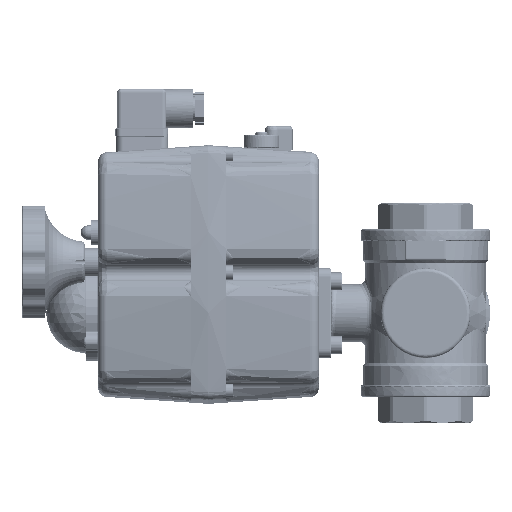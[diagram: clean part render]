
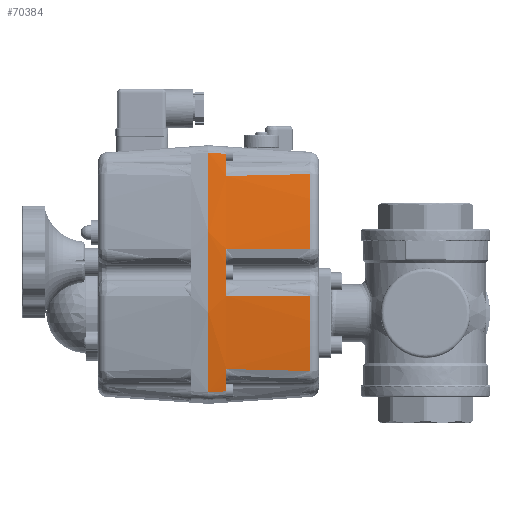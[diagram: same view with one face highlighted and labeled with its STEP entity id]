
A CAD part, left-side view. The second image highlights one B-rep face of the part: STEP entity #70384.
In plain terms, the highlighted conical face has half-angle 4 degrees and reference radius 403.75 mm.
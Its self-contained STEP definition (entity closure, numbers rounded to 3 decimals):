
#68550=CARTESIAN_POINT('',(-54.09,111.,35.657));
#68551=VERTEX_POINT('',#68550);
#68565=CARTESIAN_POINT('',(-54.09,111.,9.603));
#68566=VERTEX_POINT('',#68565);
#68567=CARTESIAN_POINT('',(348.75,111.,22.63));
#68568=DIRECTION('',(0.0,-1.0,0.0));
#68569=DIRECTION('',(0.0,0.0,-1.0));
#68570=AXIS2_PLACEMENT_3D('',#68567,#68568,#68569);
#68571=CIRCLE('',#68570,403.051);
#68572=EDGE_CURVE('',#68551,#68566,#68571,.T.);
#68970=CARTESIAN_POINT('',(-48.828,111.,-43.564));
#68971=VERTEX_POINT('',#68970);
#68985=CARTESIAN_POINT('',(-49.429,121.,-44.207));
#68986=VERTEX_POINT('',#68985);
#68987=CARTESIAN_POINT('',(-48.828,111.,-43.564));
#68988=CARTESIAN_POINT('',(-48.878,111.83,-43.617));
#68989=CARTESIAN_POINT('',(-48.928,112.659,-43.671));
#68990=CARTESIAN_POINT('',(-49.128,115.993,-43.885));
#68991=CARTESIAN_POINT('',(-49.279,118.496,-44.046));
#68992=CARTESIAN_POINT('',(-49.429,121.,-44.207));
#68993=B_SPLINE_CURVE_WITH_KNOTS('',3,(#68987,#68988,#68989,#68990,#68991,#68992),.UNSPECIFIED.,.F.,.U.,(4,2,4),(5.021,7.52,15.06),.UNSPECIFIED.);
#68994=EDGE_CURVE('',#68971,#68986,#68993,.T.);
#69039=CARTESIAN_POINT('',(-50.692,111.,-31.184));
#69040=VERTEX_POINT('',#69039);
#69054=CARTESIAN_POINT('',(348.75,111.,22.63));
#69055=DIRECTION('',(0.0,-1.0,0.0));
#69056=DIRECTION('',(0.0,0.0,-1.0));
#69057=AXIS2_PLACEMENT_3D('',#69054,#69055,#69056);
#69058=CIRCLE('',#69057,403.051);
#69059=EDGE_CURVE('',#69040,#68971,#69058,.T.);
#69137=CARTESIAN_POINT('',(-48.838,111.,88.761));
#69138=VERTEX_POINT('',#69137);
#69152=CARTESIAN_POINT('',(-50.692,111.,76.444));
#69153=VERTEX_POINT('',#69152);
#69154=CARTESIAN_POINT('',(348.75,111.,22.63));
#69155=DIRECTION('',(0.0,-1.0,0.0));
#69156=DIRECTION('',(0.0,0.0,-1.0));
#69157=AXIS2_PLACEMENT_3D('',#69154,#69155,#69156);
#69158=CIRCLE('',#69157,403.051);
#69159=EDGE_CURVE('',#69138,#69153,#69158,.T.);
#69237=CARTESIAN_POINT('',(-49.429,121.,89.468));
#69238=VERTEX_POINT('',#69237);
#69252=CARTESIAN_POINT('',(-49.429,121.,89.468));
#69253=CARTESIAN_POINT('',(-49.281,118.497,89.291));
#69254=CARTESIAN_POINT('',(-49.134,115.993,89.114));
#69255=CARTESIAN_POINT('',(-48.937,112.66,88.879));
#69256=CARTESIAN_POINT('',(-48.887,111.83,88.82));
#69257=CARTESIAN_POINT('',(-48.838,111.,88.761));
#69258=B_SPLINE_CURVE_WITH_KNOTS('',3,(#69252,#69253,#69254,#69255,#69256,#69257),.UNSPECIFIED.,.F.,.U.,(4,2,4),(5.024,12.566,15.066),.UNSPECIFIED.);
#69259=EDGE_CURVE('',#69238,#69138,#69258,.T.);
#70266=CARTESIAN_POINT('',(-47.236,64.151,77.54));
#70267=VERTEX_POINT('',#70266);
#70295=CARTESIAN_POINT('',(-50.692,111.,76.444));
#70296=CARTESIAN_POINT('',(-50.556,109.116,76.468));
#70297=CARTESIAN_POINT('',(-50.419,107.231,76.494));
#70298=CARTESIAN_POINT('',(-50.114,103.02,76.556));
#70299=CARTESIAN_POINT('',(-49.945,100.693,76.594));
#70300=CARTESIAN_POINT('',(-49.669,96.912,76.662));
#70301=CARTESIAN_POINT('',(-49.562,95.458,76.69));
#70302=CARTESIAN_POINT('',(-49.218,90.757,76.783));
#70303=CARTESIAN_POINT('',(-48.979,87.511,76.856));
#70304=CARTESIAN_POINT('',(-48.355,79.07,77.064));
#70305=CARTESIAN_POINT('',(-47.968,73.877,77.212));
#70306=CARTESIAN_POINT('',(-47.464,67.173,77.434));
#70307=CARTESIAN_POINT('',(-47.35,65.662,77.486));
#70308=CARTESIAN_POINT('',(-47.236,64.151,77.54));
#70309=B_SPLINE_CURVE_WITH_KNOTS('',3,(#70295,#70296,#70297,#70298,#70299,#70300,#70301,#70302,#70303,#70304,#70305,#70306,#70307,#70308),.UNSPECIFIED.,.F.,.U.,(4,2,2,2,2,2,4),(13.201,18.869,25.868,30.243,40.011,55.64,60.189),.UNSPECIFIED.);
#70310=EDGE_CURVE('',#69153,#70267,#70309,.T.);
#70315=CARTESIAN_POINT('',(348.75,121.,22.63));
#70316=DIRECTION('',(0.,1.0,0.));
#70317=DIRECTION('',(0.0,0.0,-1.0));
#70318=AXIS2_PLACEMENT_3D('',#70315,#70316,#70317);
#70319=CONICAL_SURFACE('',#70318,403.75,4.);
#70320=CARTESIAN_POINT('',(-50.812,64.151,9.601));
#70321=VERTEX_POINT('',#70320);
#70322=CARTESIAN_POINT('',(-47.236,64.151,-32.28));
#70323=VERTEX_POINT('',#70322);
#70324=CARTESIAN_POINT('',(348.75,64.151,22.63));
#70325=DIRECTION('',(0.,-1.0,0.));
#70326=DIRECTION('',(-0.996,0.,-0.085));
#70327=AXIS2_PLACEMENT_3D('',#70324,#70325,#70326);
#70328=CIRCLE('',#70327,399.775);
#70329=EDGE_CURVE('',#70321,#70323,#70328,.T.);
#70330=ORIENTED_EDGE('',*,*,#70329,.F.);
#70331=CARTESIAN_POINT('',(-54.09,111.,9.603));
#70332=DIRECTION('',(0.07,-0.998,0.));
#70333=VECTOR('',#70332,46.963);
#70334=LINE('',#70331,#70333);
#70335=EDGE_CURVE('',#68566,#70321,#70334,.T.);
#70336=ORIENTED_EDGE('',*,*,#70335,.F.);
#70337=ORIENTED_EDGE('',*,*,#68572,.F.);
#70338=CARTESIAN_POINT('',(-50.812,64.151,35.659));
#70339=VERTEX_POINT('',#70338);
#70340=CARTESIAN_POINT('',(-50.812,64.151,35.659));
#70341=DIRECTION('',(-0.07,0.998,0.));
#70342=VECTOR('',#70341,46.963);
#70343=LINE('',#70340,#70342);
#70344=EDGE_CURVE('',#70339,#68551,#70343,.T.);
#70345=ORIENTED_EDGE('',*,*,#70344,.F.);
#70346=CARTESIAN_POINT('',(348.75,64.151,22.63));
#70347=DIRECTION('',(0.,-1.0,0.));
#70348=DIRECTION('',(-0.996,0.,0.085));
#70349=AXIS2_PLACEMENT_3D('',#70346,#70347,#70348);
#70350=CIRCLE('',#70349,399.775);
#70351=EDGE_CURVE('',#70267,#70339,#70350,.T.);
#70352=ORIENTED_EDGE('',*,*,#70351,.F.);
#70353=ORIENTED_EDGE('',*,*,#70310,.F.);
#70354=ORIENTED_EDGE('',*,*,#69159,.F.);
#70355=ORIENTED_EDGE('',*,*,#69259,.F.);
#70356=CARTESIAN_POINT('',(348.75,121.,22.63));
#70357=DIRECTION('',(0.0,1.0,0.0));
#70358=DIRECTION('',(0.0,0.0,-1.0));
#70359=AXIS2_PLACEMENT_3D('',#70356,#70357,#70358);
#70360=CIRCLE('',#70359,403.75);
#70361=EDGE_CURVE('',#68986,#69238,#70360,.T.);
#70362=ORIENTED_EDGE('',*,*,#70361,.F.);
#70363=ORIENTED_EDGE('',*,*,#68994,.F.);
#70364=ORIENTED_EDGE('',*,*,#69059,.F.);
#70365=CARTESIAN_POINT('',(-47.236,64.151,-32.28));
#70366=CARTESIAN_POINT('',(-47.491,67.527,-32.159));
#70367=CARTESIAN_POINT('',(-47.744,70.902,-32.049));
#70368=CARTESIAN_POINT('',(-48.168,76.578,-31.879));
#70369=CARTESIAN_POINT('',(-48.34,78.879,-31.814));
#70370=CARTESIAN_POINT('',(-48.617,82.617,-31.716));
#70371=CARTESIAN_POINT('',(-48.723,84.054,-31.68));
#70372=CARTESIAN_POINT('',(-49.069,88.738,-31.568));
#70373=CARTESIAN_POINT('',(-49.308,91.985,-31.497));
#70374=CARTESIAN_POINT('',(-49.926,100.427,-31.334));
#70375=CARTESIAN_POINT('',(-50.303,105.622,-31.252));
#70376=CARTESIAN_POINT('',(-50.683,110.879,-31.186));
#70377=CARTESIAN_POINT('',(-50.688,110.939,-31.185));
#70378=CARTESIAN_POINT('',(-50.692,111.,-31.184));
#70379=B_SPLINE_CURVE_WITH_KNOTS('',3,(#70365,#70366,#70367,#70368,#70369,#70370,#70371,#70372,#70373,#70374,#70375,#70376,#70377,#70378),.UNSPECIFIED.,.F.,.U.,(4,2,2,2,2,2,4),(17.956,28.117,35.039,39.365,49.133,64.762,64.945),.UNSPECIFIED.);
#70380=EDGE_CURVE('',#70323,#69040,#70379,.T.);
#70381=ORIENTED_EDGE('',*,*,#70380,.F.);
#70382=EDGE_LOOP('',(#70330,#70336,#70337,#70345,#70352,#70353,#70354,#70355,#70362,#70363,#70364,#70381));
#70383=FACE_OUTER_BOUND('',#70382,.T.);
#70384=ADVANCED_FACE('',(#70383),#70319,.T.);
